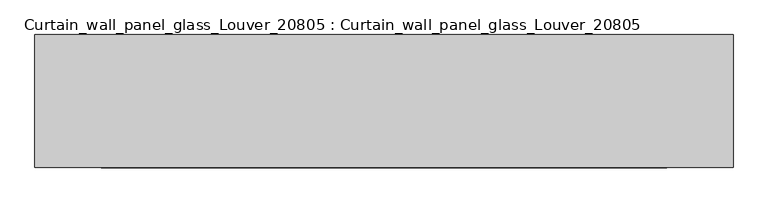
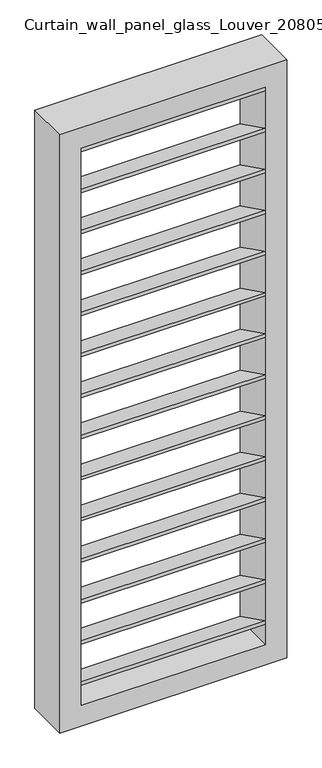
"""IFC4 building model written with IfcOpenShell, lengths in millimetres: plate geometry, Curtain_wall_panel_glass_Louver_20805 : Curtain_wall_panel_glass_Louver_20805."""

from ifc_helpers import new_model, si_unit, frame, origin, place, context, project, spatial, polyline, outline, extrude, source, transform, mapped, element, save


def curtain_wall_panel_glass_louver_20805_curtain_wall_panel_036772b2(model_context):
    return source(origin(), model_context, "Body", "SweptSolid", [
        extrude(outline(polyline([(-200.0, 199.3849981), (-200.0, 216.1349309), (0.0, 116.7499328), (0.0, 100.0), (-200.0, 199.3849981)])), frame((-425.0, 0.0, 0.0), z_axis=(1.0, 0.0, 0.0), x_axis=(0.0, 1.0, 0.0)), (0.0, 0.0, 1.0), 850.0),
        extrude(outline(polyline([(-200.0, 2808.2500672), (-200.0, 2825.0), (0.0, 2725.6150019), (0.0, 2708.8650691), (-200.0, 2808.2500672)])), frame((-425.0, 0.0, 0.0), z_axis=(1.0, 0.0, 0.0), x_axis=(0.0, 1.0, 0.0)), (0.0, 0.0, 1.0), 850.0),
        extrude(outline(polyline([(-200.0, 400.0669265), (-200.0, 416.8168593), (0.0, 317.4318612), (0.0, 300.6819284), (-200.0, 400.0669265)])), frame((-425.0, 0.0, 0.0), z_axis=(1.0, 0.0, 0.0), x_axis=(0.0, 1.0, 0.0)), (0.0, 0.0, 1.0), 850.0),
        extrude(outline(polyline([(-200.0, 600.7488549), (-200.0, 617.4987877), (0.0, 518.1137896), (0.0, 501.3638568), (-200.0, 600.7488549)])), frame((-425.0, 0.0, 0.0), z_axis=(1.0, 0.0, 0.0), x_axis=(0.0, 1.0, 0.0)), (0.0, 0.0, 1.0), 850.0),
        extrude(outline(polyline([(-200.0, 801.4307833), (-200.0, 818.1807161), (0.0, 718.795718), (0.0, 702.0457852), (-200.0, 801.4307833)])), frame((-425.0, 0.0, 0.0), z_axis=(1.0, 0.0, 0.0), x_axis=(0.0, 1.0, 0.0)), (0.0, 0.0, 1.0), 850.0),
        extrude(outline(polyline([(-200.0, 1002.1127117), (-200.0, 1018.8626445), (0.0, 919.4776464), (0.0, 902.7277136), (-200.0, 1002.1127117)])), frame((-425.0, 0.0, 0.0), z_axis=(1.0, 0.0, 0.0), x_axis=(0.0, 1.0, 0.0)), (0.0, 0.0, 1.0), 850.0),
        extrude(outline(polyline([(-200.0, 1202.79464), (-200.0, 1219.5445729), (0.0, 1120.1595748), (0.0, 1103.4096419), (-200.0, 1202.79464)])), frame((-425.0, 0.0, 0.0), z_axis=(1.0, 0.0, 0.0), x_axis=(0.0, 1.0, 0.0)), (0.0, 0.0, 1.0), 850.0),
        extrude(outline(polyline([(-200.0, 1403.4765684), (-200.0, 1420.2265013), (0.0, 1320.8415032), (0.0, 1304.0915703), (-200.0, 1403.4765684)])), frame((-425.0, 0.0, 0.0), z_axis=(1.0, 0.0, 0.0), x_axis=(0.0, 1.0, 0.0)), (0.0, 0.0, 1.0), 850.0),
        extrude(outline(polyline([(-200.0, 1604.1584968), (-200.0, 1620.9084297), (0.0, 1521.5234316), (0.0, 1504.7734987), (-200.0, 1604.1584968)])), frame((-425.0, 0.0, 0.0), z_axis=(1.0, 0.0, 0.0), x_axis=(0.0, 1.0, 0.0)), (0.0, 0.0, 1.0), 850.0),
        extrude(outline(polyline([(-200.0, 1804.8404252), (-200.0, 1821.5903581), (0.0, 1722.20536), (0.0, 1705.4554271), (-200.0, 1804.8404252)])), frame((-425.0, 0.0, 0.0), z_axis=(1.0, 0.0, 0.0), x_axis=(0.0, 1.0, 0.0)), (0.0, 0.0, 1.0), 850.0),
        extrude(outline(polyline([(-200.0, 2005.5223536), (-200.0, 2022.2722864), (0.0, 1922.8872883), (0.0, 1906.1373555), (-200.0, 2005.5223536)])), frame((-425.0, 0.0, 0.0), z_axis=(1.0, 0.0, 0.0), x_axis=(0.0, 1.0, 0.0)), (0.0, 0.0, 1.0), 850.0),
        extrude(outline(polyline([(-200.0, 2206.204282), (-200.0, 2222.9542148), (0.0, 2123.5692167), (0.0, 2106.8192839), (-200.0, 2206.204282)])), frame((-425.0, 0.0, 0.0), z_axis=(1.0, 0.0, 0.0), x_axis=(0.0, 1.0, 0.0)), (0.0, 0.0, 1.0), 850.0),
        extrude(outline(polyline([(-200.0, 2406.8862104), (-200.0, 2423.6361432), (0.0, 2324.2511451), (0.0, 2307.5012123), (-200.0, 2406.8862104)])), frame((-425.0, 0.0, 0.0), z_axis=(1.0, 0.0, 0.0), x_axis=(0.0, 1.0, 0.0)), (0.0, 0.0, 1.0), 850.0),
        extrude(outline(polyline([(-200.0, 2607.5681388), (-200.0, 2624.3180716), (0.0, 2524.9330735), (0.0, 2508.1831407), (-200.0, 2607.5681388)])), frame((-425.0, 0.0, 0.0), z_axis=(1.0, 0.0, 0.0), x_axis=(0.0, 1.0, 0.0)), (0.0, 0.0, 1.0), 850.0),
        extrude(outline(polyline([(2925.0, -525.0), (0.0, -525.0), (0.0, 525.0), (2925.0, 525.0), (2925.0, -525.0)]), holes=[polyline([(2825.0, -425.0), (2825.0, 425.0), (100.0, 425.0), (100.0, -425.0), (2825.0, -425.0)])]), frame((0.0, -200.0, 0.0), z_axis=(0.0, 1.0, 0.0), x_axis=(0.0, 0.0, 1.0)), (0.0, 0.0, 1.0), 200.0),
    ])


if __name__ == "__main__":
    model = new_model("IFC4")
    model_context = context("Model", 3, world=origin())
    ifc_project = project(units=[si_unit("LENGTHUNIT", "METRE", prefix="MILLI")], contexts=[model_context])
    site = spatial("IfcSite", under=ifc_project)
    building = spatial("IfcBuilding", under=site)
    placement = place(None, origin())
    curtain_wall_panel_glass_louver_20805_curtain_wall_panel_shape = curtain_wall_panel_glass_louver_20805_curtain_wall_panel_036772b2(model_context)
    element("IfcPlate", 1, ObjectType="Curtain_wall_panel_glass_Louver_20805 : Curtain_wall_panel_glass_Louver_20805", at=placement, inside=building, context=model_context, shape_type="MappedRepresentation", body=[
        mapped(curtain_wall_panel_glass_louver_20805_curtain_wall_panel_shape, transform((0.0, 0.0, 0.0), x_axis=(1.0, 0.0, 0.0), y_axis=(0.0, 1.0, 0.0), z_axis=(0.0, 0.0, 1.0))),
    ])
    save(model, "model.ifc")
